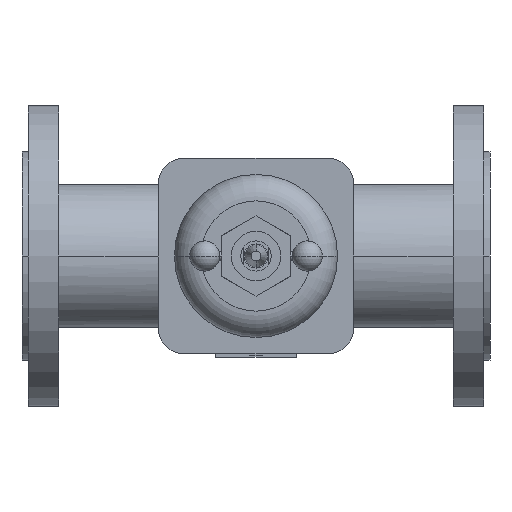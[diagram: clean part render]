
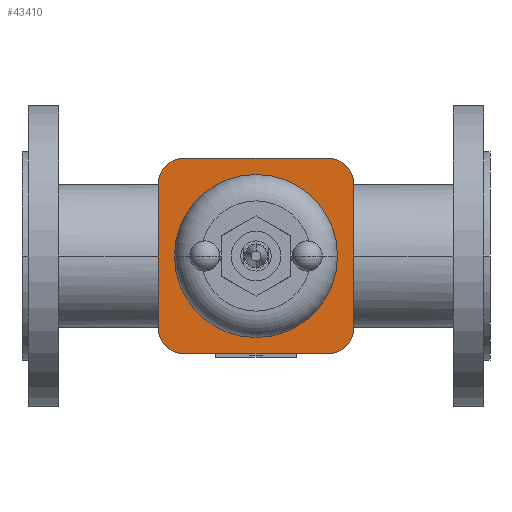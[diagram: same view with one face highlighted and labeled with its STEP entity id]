
A CAD part, front view. The second image highlights one B-rep face of the part: STEP entity #43410.
In plain terms, the highlighted planar face has unit normal (0, -1, 0).
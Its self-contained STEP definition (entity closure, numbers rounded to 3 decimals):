
#9800=CARTESIAN_POINT('',(209.,-124.62,0.));
#9810=VERTEX_POINT('',#9800);
#9840=CARTESIAN_POINT('',(155.,-124.62,0.));
#9850=DIRECTION('',(0.,-1.,0.));
#9860=DIRECTION('',(-1.,0.,0.));
#9870=AXIS2_PLACEMENT_3D('',#9840,#9850,#9860);
#9880=CIRCLE('',#9870,54.);
#9890=CARTESIAN_POINT('',(101.,-124.62,0.));
#9900=VERTEX_POINT('',#9890);
#9910=EDGE_CURVE('',#9900,#9810,#9880,.T.);
#37080=CARTESIAN_POINT('',(90.27,-124.62,-47.73));
#37090=VERTEX_POINT('',#37080);
#37140=CARTESIAN_POINT('',(107.27,-124.62,-47.73));
#37150=DIRECTION('',(0.,-1.,0.));
#37160=DIRECTION('',(0.,0.,-1.));
#37170=AXIS2_PLACEMENT_3D('',#37140,#37150,#37160);
#37180=CIRCLE('',#37170,17.);
#37190=CARTESIAN_POINT('',(107.27,-124.62,-64.73));
#37200=VERTEX_POINT('',#37190);
#37210=EDGE_CURVE('',#37090,#37200,#37180,.T.);
#38570=CARTESIAN_POINT('',(219.73,-124.62,47.73));
#38580=VERTEX_POINT('',#38570);
#38630=CARTESIAN_POINT('',(202.73,-124.62,47.73));
#38640=DIRECTION('',(0.,-1.,0.));
#38650=DIRECTION('',(0.,0.,1.));
#38660=AXIS2_PLACEMENT_3D('',#38630,#38640,#38650);
#38670=CIRCLE('',#38660,17.);
#38680=CARTESIAN_POINT('',(202.73,-124.62,64.73));
#38690=VERTEX_POINT('',#38680);
#38700=EDGE_CURVE('',#38580,#38690,#38670,.T.);
#40190=CARTESIAN_POINT('',(202.73,-124.62,-64.73));
#40200=VERTEX_POINT('',#40190);
#40250=CARTESIAN_POINT('',(202.73,-124.62,-47.73));
#40260=DIRECTION('',(0.,-1.,0.));
#40270=DIRECTION('',(1.,0.,0.));
#40280=AXIS2_PLACEMENT_3D('',#40250,#40260,#40270);
#40290=CIRCLE('',#40280,17.);
#40300=CARTESIAN_POINT('',(219.73,-124.62,-47.73));
#40310=VERTEX_POINT('',#40300);
#40320=EDGE_CURVE('',#40200,#40310,#40290,.T.);
#40880=CARTESIAN_POINT('',(219.73,-124.62,23.865));
#40890=DIRECTION('',(0.,0.,1.));
#40900=VECTOR('',#40890,1.);
#40910=LINE('',#40880,#40900);
#40920=EDGE_CURVE('',#40310,#38580,#40910,.T.);
#42000=CARTESIAN_POINT('',(90.27,-124.62,47.73));
#42010=VERTEX_POINT('',#42000);
#42040=CARTESIAN_POINT('',(90.27,-124.62,-23.865));
#42050=DIRECTION('',(0.,0.,-1.));
#42060=VECTOR('',#42050,1.);
#42070=LINE('',#42040,#42060);
#42080=EDGE_CURVE('',#42010,#37090,#42070,.T.);
#43030=CARTESIAN_POINT('',(85.25,-124.62,0.));
#43040=DIRECTION('',(0.,-1.,0.));
#43050=DIRECTION('',(-1.,0.,0.));
#43060=AXIS2_PLACEMENT_3D('',#43030,#43040,#43050);
#43070=PLANE('',#43060);
#43080=CARTESIAN_POINT('',(107.27,-124.62,47.73));
#43090=DIRECTION('',(0.,-1.,0.));
#43100=DIRECTION('',(-1.,0.,0.));
#43110=AXIS2_PLACEMENT_3D('',#43080,#43090,#43100);
#43120=CIRCLE('',#43110,17.);
#43130=CARTESIAN_POINT('',(107.27,-124.62,64.73));
#43140=VERTEX_POINT('',#43130);
#43150=EDGE_CURVE('',#43140,#42010,#43120,.T.);
#43160=ORIENTED_EDGE('',*,*,#43150,.T.);
#43170=CARTESIAN_POINT('',(96.26,-124.62,64.73));
#43180=DIRECTION('',(-1.,0.,0.));
#43190=VECTOR('',#43180,1.);
#43200=LINE('',#43170,#43190);
#43210=EDGE_CURVE('',#38690,#43140,#43200,.T.);
#43220=ORIENTED_EDGE('',*,*,#43210,.T.);
#43230=ORIENTED_EDGE('',*,*,#38700,.T.);
#43240=ORIENTED_EDGE('',*,*,#40920,.T.);
#43250=ORIENTED_EDGE('',*,*,#40320,.T.);
#43260=CARTESIAN_POINT('',(143.99,-124.62,-64.73));
#43270=DIRECTION('',(1.,0.,0.));
#43280=VECTOR('',#43270,1.);
#43290=LINE('',#43260,#43280);
#43300=EDGE_CURVE('',#37200,#40200,#43290,.T.);
#43310=ORIENTED_EDGE('',*,*,#43300,.T.);
#43320=ORIENTED_EDGE('',*,*,#37210,.T.);
#43330=ORIENTED_EDGE('',*,*,#42080,.T.);
#43340=EDGE_LOOP('',(#43330,#43320,#43310,#43250,#43240,#43230,#43220,
#43160));
#43350=FACE_OUTER_BOUND('',#43340,.T.);
#43360=EDGE_CURVE('',#9810,#9900,#9880,.T.);
#43370=ORIENTED_EDGE('',*,*,#43360,.F.);
#43380=ORIENTED_EDGE('',*,*,#9910,.F.);
#43390=EDGE_LOOP('',(#43380,#43370));
#43400=FACE_BOUND('',#43390,.T.);
#43410=ADVANCED_FACE('',(#43350,#43400),#43070,.T.);
